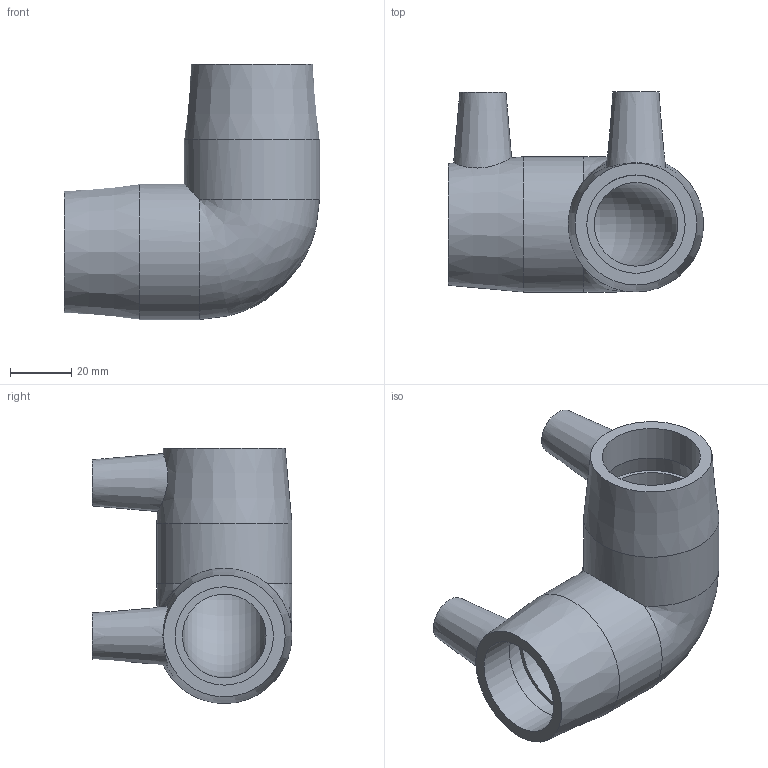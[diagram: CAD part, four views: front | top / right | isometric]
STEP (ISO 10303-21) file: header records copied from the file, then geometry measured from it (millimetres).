
FILE_DESCRIPTION(/* description */ ('PLASSON 90° ELBOW 32'),/* implementation_level */ '2;1');
FILE_NAME(/* name */ '490504032.stp',/* time_stamp */ '2026-03-22T13:14:54+02:00',/* author */ ('KIM'),/* organization */ (''),/* preprocessor_version */ 'ST-DEVELOPER v20.1',/* originating_system */ 'Autodesk Inventor 2026',/* authorisation */ '');
FILE_SCHEMA (('AUTOMOTIVE_DESIGN { 1 0 10303 214 3 1 1 }'));
Length unit declared in the file: millimetre
Products named in the file (1): 490504032
Bounding box: 83 x 65 x 83 mm (x, y, z)
Volume: 89009.8 mm3; surface area: 31699.5 mm2
Topology: 1 solids, 1 shells, 30 faces, 54 edges, 34 vertices
Faces by surface type: plane 12, cylinder 10, cone 6, bspline 1, torus 1
Full cylindrical faces by diameter (mm): 4 x2, 10 x2, 32 x4, 44 x2
Entity records: 861 total; most frequent: CARTESIAN_POINT 211, DIRECTION 140, ORIENTED_EDGE 104, AXIS2_PLACEMENT_3D 62, EDGE_CURVE 52, EDGE_LOOP 42, VERTEX_POINT 34, CIRCLE 31
